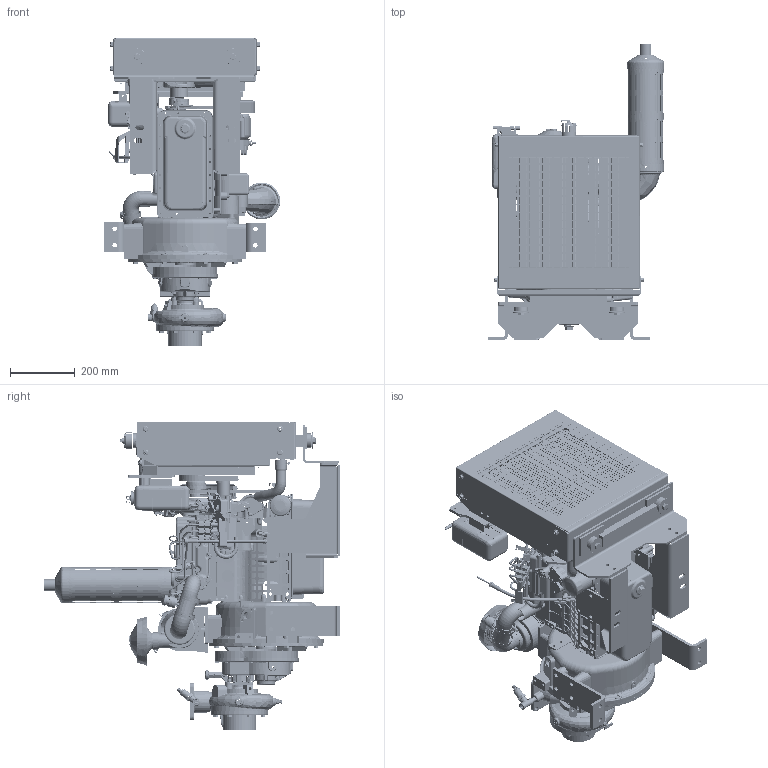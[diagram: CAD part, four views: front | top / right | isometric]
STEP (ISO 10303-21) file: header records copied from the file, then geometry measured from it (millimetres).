
FILE_DESCRIPTION (( 'STEP AP214' ), '1' );
FILE_NAME ('DAD2334.STEP', '2026-03-19T19:18:44', ( '' ), ( '' ), 'SwSTEP 2.0', 'SolidWorks 2024', '' );
FILE_SCHEMA (( 'AUTOMOTIVE_DESIGN' ));
Products named in the file (1): DAD2334
Bounding box: 544.55 x 916.71 x 954.49 mm (x, y, z)
Surface area: 5849038.8 mm2 (no closed solid volume)
Topology: 0 solids, 905 shells, 10189 faces, 45082 edges, 34217 vertices
Faces by surface type: plane 3917, cylinder 3245, bspline 1002, torus 982, cone 936, sphere 107
Entity records: 724510 total; most frequent: CARTESIAN_POINT 409369, ORIENTED_EDGE 63868, DIRECTION 49289, EDGE_CURVE 44973, VERTEX_POINT 34214, B_SPLINE_CURVE_WITH_KNOTS 22523, AXIS2_PLACEMENT_3D 17901, LINE 13487
